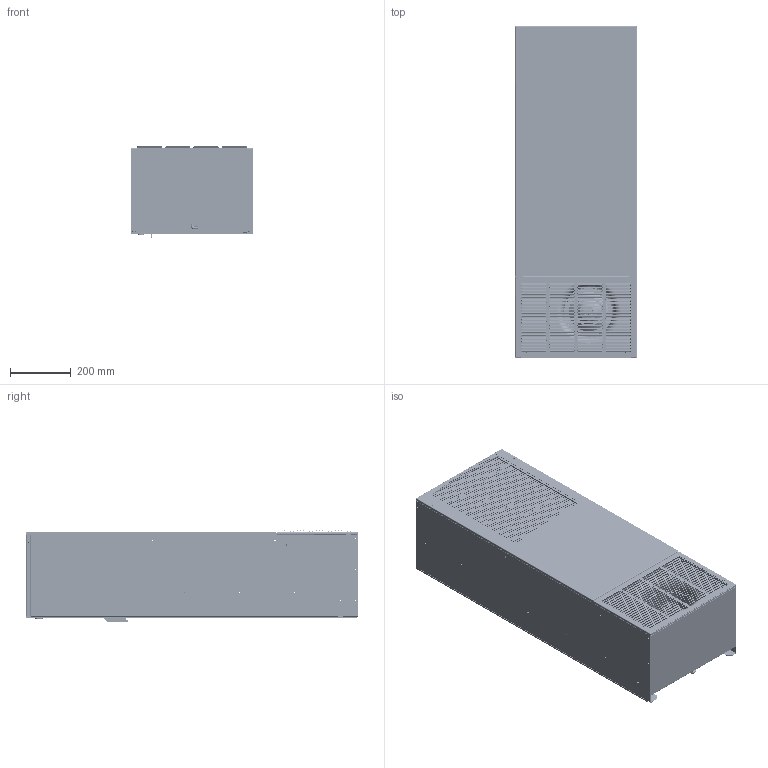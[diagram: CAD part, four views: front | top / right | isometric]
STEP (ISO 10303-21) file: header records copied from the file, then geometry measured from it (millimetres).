
FILE_DESCRIPTION((''),'2;1');
FILE_NAME('00-1000-166_ASM','2010-04-16T',('fhalvors'),(''),'PRO/ENGINEER BY PARAMETRIC TECHNOLOGY CORPORATION, 2006510','PRO/ENGINEER BY PARAMETRIC TECHNOLOGY CORPORATION, 2006510','');
FILE_SCHEMA(('CONFIG_CONTROL_DESIGN'));
Length unit declared in the file: inch
Products named in the file (83): 43-2516-02; 10-1044-02; 43-2516-02_ASM; 43-2501-01; 10PEMNUT; 250PEMNUT; 10-1015-240; 43-2501-01_ASM; 43-2502-01; 43-2502-01_ASM; 43-2504-00; 43-2504-00_ASM; 43601200; 45600501; 45600501_ASM; 43601500; 45600600; 45600600_ASM; 45600700; 50-2653-05; 10-1016-84; 45-6051-00; 45-6008-01; 45600400; IMPELLER_R2E220-AA; 43-2517-00; 43-2517-00_ASM; 10-1061-16; 43-2510-10; FH-024-12; 43-2510-10_ASM; 52-6032-01; 52-6084-02; 10-1003-31; 43-2518-00; 43-2512-00; 43-2512-00_ASM; 11-7810-69; 11-7810-67; 11-7810-68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
Assembly tree (163 placements, depth 3):
  00-1000-166_ASM
    43-2516-02_ASM
      43-2516-02
      10-1044-02
    43-2501-01_ASM
      43-2501-01
      10PEMNUT  x2
      250PEMNUT  x10
      10-1015-240  x3
    43-2502-01_ASM
      43-2502-01
      250PEMNUT  x10
      10PEMNUT  x2
      10-1015-240  x3
    43-2504-00_ASM
      43-2504-00
      10PEMNUT  x8
    43601200
    45600501_ASM  x2
      45600501
    43601500
    45600600_ASM  x2
      45600600
      10PEMNUT
    45600700
    50-2653-05
    10-1016-84
    45-6051-00
    45-6008-01
    45600400
    IMPELLER_R2E220-AA  x2
    43-2517-00_ASM
      43-2517-00
      250PEMNUT
    10-1061-16  x2
    43-2510-10_ASM
      43-2510-10
      FH-024-12
    52-6032-01  x3
    52-6084-02  x2
    10-1003-31  x2
    43-2518-00
    43-2512-00_ASM
      43-2512-00
    10-1015-240  x6
    11-7810-69
    11-7810-67
    11-7810-68
    52-6021-00
    52-6021-01
    38-2023-00  x2
    45-6013-02_ASM
      45-6013-02
      FH-632-4  x4
    25020_625_CAP_HEX  x7
    45500500
    10-1045-03  x2
    10795000  x2
    43500063
    52-6057-01  x2
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Bounding box: 400.06 x 1092.43 x 304.14 mm (x, y, z)
Volume: 27892672.8 mm3; surface area: 8736554.8 mm2
Topology: 154 solids, 157 shells, 15025 faces, 39163 edges, 24946 vertices
Faces by surface type: plane 10253, cylinder 3135, torus 650, bspline 565, cone 366, extrusion 36, sphere 20
Entity records: 401302 total; most frequent: CARTESIAN_POINT 87382, ORIENTED_EDGE 65786, DIRECTION 61638, EDGE_CURVE 32893, VECTOR 27148, LINE 27130, VERTEX_POINT 21013, AXIS2_PLACEMENT_3D 17245
